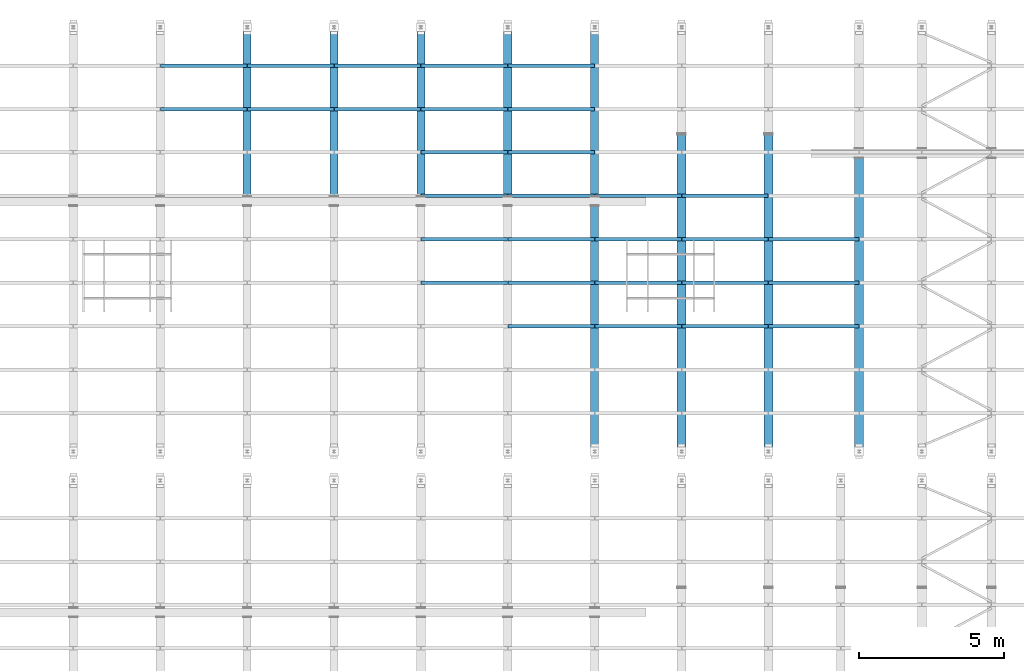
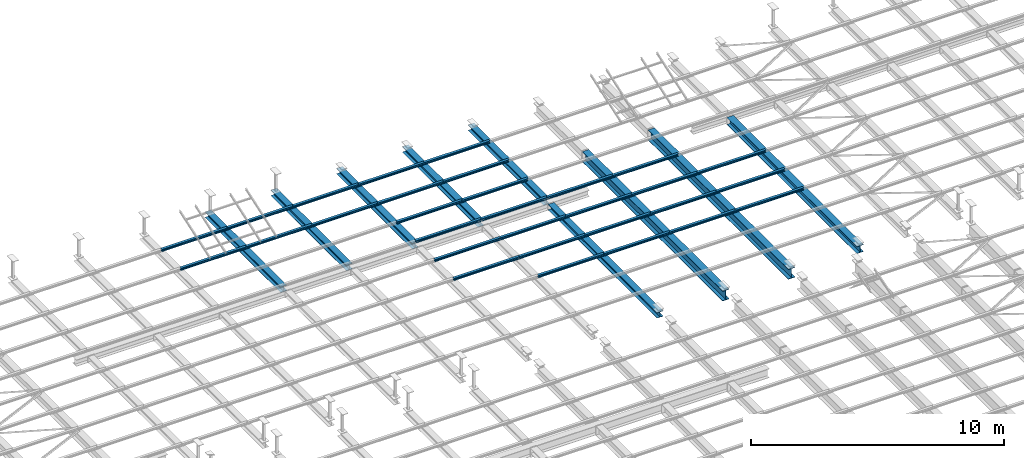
# One storey, part 82 of 139: 39 beams.
"""IFC2X3 building model written with IfcOpenShell, lengths in metres."""

from ifc_helpers import new_model, entity, si_unit, converted_unit, derived_unit, frame, origin, place, context, subcontext, project, spatial, polyline, outline, extrude, material, element, save


model = new_model("IFC2X3")

# Units and contexts
model_context = context("Model", 3, precision=1e-05, world=origin())
body_context = subcontext(model_context, "Body", "Model", "MODEL_VIEW")
ifc_project = project(units=[si_unit("LENGTHUNIT", "METRE"), si_unit("AREAUNIT", "SQUARE_METRE"), si_unit("VOLUMEUNIT", "CUBIC_METRE"), si_unit("MASSUNIT", "GRAM", prefix="KILO"), converted_unit("PLANEANGLEUNIT", "DEGREE", entity("IfcPlaneAngleMeasure", 0.0174532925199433), si_unit("PLANEANGLEUNIT", "RADIAN"), dimensions=[0, 0, 0, 0, 0, 0, 0]), derived_unit("THERMALTRANSMITTANCEUNIT", [(si_unit("POWERUNIT", "WATT"), 1), (si_unit("THERMODYNAMICTEMPERATUREUNIT", "KELVIN"), -1), (si_unit("LENGTHUNIT", "METRE"), -2)]), derived_unit("VOLUMETRICFLOWRATEUNIT", [(si_unit("LENGTHUNIT", "METRE"), 3), (converted_unit("TIMEUNIT", "hour", entity("IfcTimeMeasure", 3600.0), si_unit("TIMEUNIT", "SECOND"), dimensions=[0, 0, 1, 0, 0, 0, 0]), -1), (si_unit("LENGTHUNIT", "METRE"), -1)])], contexts=[model_context])

# Site, building, storey
site_placement = place(None, origin())
site = spatial("IfcSite", under=ifc_project, at=site_placement, Name="TWP_Speiseverteilzentrum SBW VZ II", CompositionType="ELEMENT")
building_placement = place(site_placement, origin())
building = spatial("IfcBuilding", under=site, at=building_placement, Name="Speiseverteilzentrum SBW VZ II", CompositionType="ELEMENT")
storey_placement = place(building_placement, frame((0.0, 0.0, 7.1307)))
storey = spatial("IfcBuildingStorey", under=building, at=storey_placement, Name="Wartung_FFB", CompositionType="ELEMENT", Elevation=7.1307)

# Beams
ifc_material_1 = material(Name="S235")
beam_1_placement = place(storey_placement, frame((61.0500000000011, 85.7000000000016, -0.325), z_axis=(0.0, 0.0, 1.0), x_axis=(-1.0, 0.0, 0.0)))
element("IfcBeam", 1, at=beam_1_placement, inside=storey, material=ifc_material_1, Name="Stahlträger", context=body_context, shape_type="SweptSolid", body=[
    extrude(outline(polyline([(-0.14, 0.135), (-0.14, 0.122), (-0.00400000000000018, 0.122), (-0.00400000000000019, -0.122), (-0.14, -0.122), (-0.14, -0.135), (0.14, -0.135), (0.14, -0.122), (0.00399999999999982, -0.122), (0.00399999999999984, 0.122), (0.14, 0.122), (0.14, 0.135), (-0.14, 0.135)])), frame((0.0, 0.0, 0.0), z_axis=(0.0, 1.0, 0.0), x_axis=(-1.0, 0.0, 0.0)), (0.0, 0.0, 1.0), 5.97756608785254),
])
ifc_material_2 = material(Name="S235")
beam_2_placement = place(storey_placement, frame((64.0500000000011, 85.7000000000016, -0.325), z_axis=(0.0, 0.0, 1.0), x_axis=(-1.0, 0.0, 0.0)))
element("IfcBeam", 2, at=beam_2_placement, inside=storey, material=ifc_material_2, Name="Stahlträger", context=body_context, shape_type="SweptSolid", body=[
    extrude(outline(polyline([(-0.14, 0.135), (-0.14, 0.122), (-0.00400000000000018, 0.122), (-0.00400000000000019, -0.122), (-0.14, -0.122), (-0.14, -0.135), (0.14, -0.135), (0.14, -0.122), (0.00399999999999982, -0.122), (0.00399999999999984, 0.122), (0.14, 0.122), (0.14, 0.135), (-0.14, 0.135)])), frame((0.0, 0.0, 0.0), z_axis=(0.0, 1.0, 0.0), x_axis=(-1.0, 0.0, 0.0)), (0.0, 0.0, 1.0), 5.97756608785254),
])
ifc_material_3 = material(Name="S235")
beam_3_placement = place(storey_placement, frame((67.0500000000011, 85.7000000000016, -0.325), z_axis=(0.0, 0.0, 1.0), x_axis=(-1.0, 0.0, 0.0)))
element("IfcBeam", 3, at=beam_3_placement, inside=storey, material=ifc_material_3, Name="Stahlträger", context=body_context, shape_type="SweptSolid", body=[
    extrude(outline(polyline([(-0.14, 0.135), (-0.14, 0.122), (-0.00400000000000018, 0.122), (-0.00400000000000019, -0.122), (-0.14, -0.122), (-0.14, -0.135), (0.14, -0.135), (0.14, -0.122), (0.00399999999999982, -0.122), (0.00399999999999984, 0.122), (0.14, 0.122), (0.14, 0.135), (-0.14, 0.135)])), frame((0.0, 0.0, 0.0), z_axis=(0.0, 1.0, 0.0), x_axis=(-1.0, 0.0, 0.0)), (0.0, 0.0, 1.0), 5.97756608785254),
])
ifc_material_4 = material(Name="S235")
beam_4_placement = place(storey_placement, frame((70.0500000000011, 85.7000000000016, -0.325), z_axis=(0.0, 0.0, 1.0), x_axis=(-1.0, 0.0, 0.0)))
element("IfcBeam", 4, at=beam_4_placement, inside=storey, material=ifc_material_4, Name="Stahlträger", context=body_context, shape_type="SweptSolid", body=[
    extrude(outline(polyline([(-0.14, 0.135), (-0.14, 0.122), (-0.00400000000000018, 0.122), (-0.00400000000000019, -0.122), (-0.14, -0.122), (-0.14, -0.135), (0.14, -0.135), (0.14, -0.122), (0.00399999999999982, -0.122), (0.00399999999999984, 0.122), (0.14, 0.122), (0.14, 0.135), (-0.14, 0.135)])), frame((0.0, 0.0, 0.0), z_axis=(0.0, 1.0, 0.0), x_axis=(-1.0, 0.0, 0.0)), (0.0, 0.0, 1.0), 5.97756608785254),
])
ifc_material_5 = material(Name="S235")
beam_5_placement = place(storey_placement, frame((73.0500000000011, 85.7000000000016, -0.325), z_axis=(0.0, 0.0, 1.0), x_axis=(-1.0, 0.0, 0.0)))
element("IfcBeam", 5, at=beam_5_placement, inside=storey, material=ifc_material_5, Name="Stahlträger", context=body_context, shape_type="SweptSolid", body=[
    extrude(outline(polyline([(-0.14, 0.135), (-0.14, 0.122), (-0.00400000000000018, 0.122), (-0.00400000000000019, -0.122), (-0.14, -0.122), (-0.14, -0.135), (0.14, -0.135), (0.14, -0.122), (0.00399999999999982, -0.122), (0.00399999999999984, 0.122), (0.14, 0.122), (0.14, 0.135), (-0.14, 0.135)])), frame((0.0, 0.0, 0.0), z_axis=(0.0, 1.0, 0.0), x_axis=(-1.0, 0.0, 0.0)), (0.0, 0.0, 1.0), 5.97756608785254),
])
ifc_material_6 = material(Name="S235")
beam_6_placement = place(storey_placement, frame((73.0500000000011, 79.372433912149, -0.325), z_axis=(0.0, 0.0, 1.0), x_axis=(-1.0, 0.0, 0.0)))
element("IfcBeam", 6, at=beam_6_placement, inside=storey, material=ifc_material_6, Name="Stahlträger", context=body_context, shape_type="SweptSolid", body=[
    extrude(outline(polyline([(-0.14, 0.135), (-0.14, 0.122), (-0.00400000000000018, 0.122), (-0.00400000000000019, -0.122), (-0.14, -0.122), (-0.14, -0.135), (0.14, -0.135), (0.14, -0.122), (0.00399999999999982, -0.122), (0.00399999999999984, 0.122), (0.14, 0.122), (0.14, 0.135), (-0.14, 0.135)])), frame((0.0, 0.0, 0.0), z_axis=(0.0, 1.0, 0.0), x_axis=(-1.0, 0.0, 0.0)), (0.0, 0.0, 1.0), 8.62018125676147),
])
ifc_material_7 = material(Name="S235")
beam_7_placement = place(storey_placement, frame((79.0500000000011, 81.8430000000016, -0.435), z_axis=(0.0, 0.0, 1.0), x_axis=(-1.0, 0.0, 0.0)))
element("IfcBeam", 7, at=beam_7_placement, inside=storey, material=ifc_material_7, Name="Stahlträger", context=body_context, shape_type="SweptSolid", body=[
    extrude(outline(polyline([(-0.15, 0.245), (-0.15, 0.222), (-0.00599999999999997, 0.222), (-0.006, -0.222), (-0.15, -0.222), (-0.15, -0.245), (0.15, -0.245), (0.15, -0.222), (0.00600000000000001, -0.222), (0.00600000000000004, 0.222), (0.15, 0.222), (0.15, 0.245), (-0.15, 0.245)])), frame((0.0, 0.0, 0.0), z_axis=(0.0, 1.0, 0.0), x_axis=(-1.0, 0.0, 0.0)), (0.0, 0.0, 1.0), 11.090747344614),
])
ifc_material_8 = material(Name="S235")
beam_8_placement = place(storey_placement, frame((76.0500000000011, 81.8430000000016, -0.435), z_axis=(0.0, 0.0, 1.0), x_axis=(-1.0, 0.0, 0.0)))
element("IfcBeam", 8, at=beam_8_placement, inside=storey, material=ifc_material_8, Name="Stahlträger", context=body_context, shape_type="SweptSolid", body=[
    extrude(outline(polyline([(-0.15, 0.245), (-0.15, 0.222), (-0.00599999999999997, 0.222), (-0.006, -0.222), (-0.15, -0.222), (-0.15, -0.245), (0.15, -0.245), (0.15, -0.222), (0.00600000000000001, -0.222), (0.00600000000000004, 0.222), (0.15, 0.222), (0.15, 0.245), (-0.15, 0.245)])), frame((0.0, 0.0, 0.0), z_axis=(0.0, 1.0, 0.0), x_axis=(-1.0, 0.0, 0.0)), (0.0, 0.0, 1.0), 11.090747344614),
])
ifc_material_9 = material(Name="S235")
beam_9_placement = place(storey_placement, frame((82.1800000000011, 81.0244153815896, -0.365), z_axis=(0.0, 0.0, 1.0), x_axis=(-1.0, 0.0, 0.0)))
element("IfcBeam", 9, at=beam_9_placement, inside=storey, material=ifc_material_9, Name="Stahlträger", context=body_context, shape_type="SweptSolid", body=[
    extrude(outline(polyline([(-0.15, 0.175), (-0.15, 0.1575), (-0.00500000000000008, 0.1575), (-0.0050000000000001, -0.1575), (-0.15, -0.1575), (-0.15, -0.175), (0.15, -0.175), (0.15, -0.1575), (0.0049999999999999, -0.1575), (0.00499999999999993, 0.1575), (0.15, 0.1575), (0.15, 0.175), (-0.15, 0.175)])), frame((0.0, 0.0, 0.0), z_axis=(0.0, 1.0, 0.0), x_axis=(-1.0, 0.0, 0.0)), (0.0, 0.0, 1.0), 10.272162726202),
])
ifc_material_10 = material(Name="S235")
beam_10_placement = place(storey_placement, frame((64.0600000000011, 84.2261263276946, -0.133), z_axis=(0.0, 0.0, 1.0), x_axis=(0.0, -1.0, 0.0)))
element("IfcBeam", 10, at=beam_10_placement, inside=storey, material=ifc_material_10, Name="Nebenträger", context=body_context, shape_type="SweptSolid", body=[
    extrude(outline(polyline([(-0.06, 0.0570000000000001), (-0.06, 0.0490000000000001), (-0.00249999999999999, 0.0490000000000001), (-0.0025, -0.0489999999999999), (-0.06, -0.0489999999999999), (-0.06, -0.0569999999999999), (0.06, -0.0569999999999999), (0.06, -0.0489999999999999), (0.0025, -0.0489999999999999), (0.00250000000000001, 0.0490000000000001), (0.06, 0.0490000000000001), (0.06, 0.0570000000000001), (-0.06, 0.0570000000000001)])), frame((0.0, 0.0, 0.0), z_axis=(0.0, 1.0, 0.0), x_axis=(-1.0, 0.0, 0.0)), (0.0, 0.0, 1.0), 2.98000000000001),
])
ifc_material_11 = material(Name="S235")
beam_11_placement = place(storey_placement, frame((67.0600000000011, 84.2261263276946, -0.133), z_axis=(0.0, 0.0, 1.0), x_axis=(0.0, -1.0, 0.0)))
element("IfcBeam", 11, at=beam_11_placement, inside=storey, material=ifc_material_11, Name="Nebenträger", context=body_context, shape_type="SweptSolid", body=[
    extrude(outline(polyline([(-0.06, 0.0570000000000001), (-0.06, 0.0490000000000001), (-0.00249999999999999, 0.0490000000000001), (-0.0025, -0.0489999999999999), (-0.06, -0.0489999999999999), (-0.06, -0.0569999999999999), (0.06, -0.0569999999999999), (0.06, -0.0489999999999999), (0.0025, -0.0489999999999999), (0.00250000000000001, 0.0490000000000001), (0.06, 0.0490000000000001), (0.06, 0.0570000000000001), (-0.06, 0.0570000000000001)])), frame((0.0, 0.0, 0.0), z_axis=(0.0, 1.0, 0.0), x_axis=(-1.0, 0.0, 0.0)), (0.0, 0.0, 1.0), 2.98),
])
ifc_material_12 = material(Name="S235")
beam_12_placement = place(storey_placement, frame((70.0600000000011, 84.2261263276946, -0.133), z_axis=(0.0, 0.0, 1.0), x_axis=(0.0, -1.0, 0.0)))
element("IfcBeam", 12, at=beam_12_placement, inside=storey, material=ifc_material_12, Name="Nebenträger", context=body_context, shape_type="SweptSolid", body=[
    extrude(outline(polyline([(-0.06, 0.0570000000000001), (-0.06, 0.0490000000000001), (-0.00249999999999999, 0.0490000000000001), (-0.0025, -0.0489999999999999), (-0.06, -0.0489999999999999), (-0.06, -0.0569999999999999), (0.06, -0.0569999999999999), (0.06, -0.0489999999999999), (0.0025, -0.0489999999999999), (0.00250000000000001, 0.0490000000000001), (0.06, 0.0490000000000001), (0.06, 0.0570000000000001), (-0.06, 0.0570000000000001)])), frame((0.0, 0.0, 0.0), z_axis=(0.0, 1.0, 0.0), x_axis=(-1.0, 0.0, 0.0)), (0.0, 0.0, 1.0), 2.98),
])
ifc_material_13 = material(Name="S235")
beam_13_placement = place(storey_placement, frame((58.0600000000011, 84.2261263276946, -0.133), z_axis=(0.0, 0.0, 1.0), x_axis=(0.0, -1.0, 0.0)))
element("IfcBeam", 13, at=beam_13_placement, inside=storey, material=ifc_material_13, Name="Nebenträger", context=body_context, shape_type="SweptSolid", body=[
    extrude(outline(polyline([(-0.06, 0.0570000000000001), (-0.06, 0.0490000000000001), (-0.00249999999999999, 0.0490000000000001), (-0.0025, -0.0489999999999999), (-0.06, -0.0489999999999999), (-0.06, -0.0569999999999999), (0.06, -0.0569999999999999), (0.06, -0.0489999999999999), (0.0025, -0.0489999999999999), (0.00250000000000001, 0.0490000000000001), (0.06, 0.0490000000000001), (0.06, 0.0570000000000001), (-0.06, 0.0570000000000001)])), frame((0.0, 0.0, 0.0), z_axis=(0.0, 1.0, 0.0), x_axis=(-1.0, 0.0, 0.0)), (0.0, 0.0, 1.0), 2.98),
])
ifc_material_14 = material(Name="S235")
beam_14_placement = place(storey_placement, frame((61.0600000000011, 84.2261263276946, -0.133), z_axis=(0.0, 0.0, 1.0), x_axis=(0.0, -1.0, 0.0)))
element("IfcBeam", 14, at=beam_14_placement, inside=storey, material=ifc_material_14, Name="Nebenträger", context=body_context, shape_type="SweptSolid", body=[
    extrude(outline(polyline([(-0.06, 0.0570000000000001), (-0.06, 0.0490000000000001), (-0.00249999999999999, 0.0490000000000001), (-0.0025, -0.0489999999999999), (-0.06, -0.0489999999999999), (-0.06, -0.0569999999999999), (0.06, -0.0569999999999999), (0.06, -0.0489999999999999), (0.0025, -0.0489999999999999), (0.00250000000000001, 0.0490000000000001), (0.06, 0.0490000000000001), (0.06, 0.0570000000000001), (-0.06, 0.0570000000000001)])), frame((0.0, 0.0, 0.0), z_axis=(0.0, 1.0, 0.0), x_axis=(-1.0, 0.0, 0.0)), (0.0, 0.0, 1.0), 2.98),
])
ifc_material_15 = material(Name="S235")
beam_15_placement = place(storey_placement, frame((64.0600000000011, 82.7261263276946, -0.133), z_axis=(0.0, 0.0, 1.0), x_axis=(0.0, -1.0, 0.0)))
element("IfcBeam", 15, at=beam_15_placement, inside=storey, material=ifc_material_15, Name="Nebenträger", context=body_context, shape_type="SweptSolid", body=[
    extrude(outline(polyline([(-0.06, 0.0570000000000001), (-0.06, 0.0490000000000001), (-0.00249999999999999, 0.0490000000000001), (-0.0025, -0.0489999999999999), (-0.06, -0.0489999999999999), (-0.06, -0.0569999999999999), (0.06, -0.0569999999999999), (0.06, -0.0489999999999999), (0.0025, -0.0489999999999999), (0.00250000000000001, 0.0490000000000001), (0.06, 0.0490000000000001), (0.06, 0.0570000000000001), (-0.06, 0.0570000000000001)])), frame((0.0, 0.0, 0.0), z_axis=(0.0, 1.0, 0.0), x_axis=(-1.0, 0.0, 0.0)), (0.0, 0.0, 1.0), 2.98000000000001),
])
ifc_material_16 = material(Name="S235")
beam_16_placement = place(storey_placement, frame((67.0600000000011, 82.7261263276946, -0.133), z_axis=(0.0, 0.0, 1.0), x_axis=(0.0, -1.0, 0.0)))
element("IfcBeam", 16, at=beam_16_placement, inside=storey, material=ifc_material_16, Name="Nebenträger", context=body_context, shape_type="SweptSolid", body=[
    extrude(outline(polyline([(-0.06, 0.0570000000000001), (-0.06, 0.0490000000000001), (-0.00249999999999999, 0.0490000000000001), (-0.0025, -0.0489999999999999), (-0.06, -0.0489999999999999), (-0.06, -0.0569999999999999), (0.06, -0.0569999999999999), (0.06, -0.0489999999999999), (0.0025, -0.0489999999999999), (0.00250000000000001, 0.0490000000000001), (0.06, 0.0490000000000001), (0.06, 0.0570000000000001), (-0.06, 0.0570000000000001)])), frame((0.0, 0.0, 0.0), z_axis=(0.0, 1.0, 0.0), x_axis=(-1.0, 0.0, 0.0)), (0.0, 0.0, 1.0), 2.98),
])
ifc_material_17 = material(Name="S235")
beam_17_placement = place(storey_placement, frame((70.0600000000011, 82.7261263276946, -0.133), z_axis=(0.0, 0.0, 1.0), x_axis=(0.0, -1.0, 0.0)))
element("IfcBeam", 17, at=beam_17_placement, inside=storey, material=ifc_material_17, Name="Nebenträger", context=body_context, shape_type="SweptSolid", body=[
    extrude(outline(polyline([(-0.06, 0.0570000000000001), (-0.06, 0.0490000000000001), (-0.00249999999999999, 0.0490000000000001), (-0.0025, -0.0489999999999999), (-0.06, -0.0489999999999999), (-0.06, -0.0569999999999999), (0.06, -0.0569999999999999), (0.06, -0.0489999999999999), (0.0025, -0.0489999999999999), (0.00250000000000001, 0.0490000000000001), (0.06, 0.0490000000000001), (0.06, 0.0570000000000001), (-0.06, 0.0570000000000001)])), frame((0.0, 0.0, 0.0), z_axis=(0.0, 1.0, 0.0), x_axis=(-1.0, 0.0, 0.0)), (0.0, 0.0, 1.0), 2.98),
])
ifc_material_18 = material(Name="S235")
beam_18_placement = place(storey_placement, frame((58.0600000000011, 82.7261263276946, -0.133), z_axis=(0.0, 0.0, 1.0), x_axis=(0.0, -1.0, 0.0)))
element("IfcBeam", 18, at=beam_18_placement, inside=storey, material=ifc_material_18, Name="Nebenträger", context=body_context, shape_type="SweptSolid", body=[
    extrude(outline(polyline([(-0.06, 0.0570000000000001), (-0.06, 0.0490000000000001), (-0.00249999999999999, 0.0490000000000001), (-0.0025, -0.0489999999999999), (-0.06, -0.0489999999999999), (-0.06, -0.0569999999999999), (0.06, -0.0569999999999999), (0.06, -0.0489999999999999), (0.0025, -0.0489999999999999), (0.00250000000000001, 0.0490000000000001), (0.06, 0.0490000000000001), (0.06, 0.0570000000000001), (-0.06, 0.0570000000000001)])), frame((0.0, 0.0, 0.0), z_axis=(0.0, 1.0, 0.0), x_axis=(-1.0, 0.0, 0.0)), (0.0, 0.0, 1.0), 2.98),
])
ifc_material_19 = material(Name="S235")
beam_19_placement = place(storey_placement, frame((61.0600000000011, 82.7261263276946, -0.133), z_axis=(0.0, 0.0, 1.0), x_axis=(0.0, -1.0, 0.0)))
element("IfcBeam", 19, at=beam_19_placement, inside=storey, material=ifc_material_19, Name="Nebenträger", context=body_context, shape_type="SweptSolid", body=[
    extrude(outline(polyline([(-0.06, 0.0570000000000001), (-0.06, 0.0490000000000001), (-0.00249999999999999, 0.0490000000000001), (-0.0025, -0.0489999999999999), (-0.06, -0.0489999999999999), (-0.06, -0.0569999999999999), (0.06, -0.0569999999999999), (0.06, -0.0489999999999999), (0.0025, -0.0489999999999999), (0.00250000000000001, 0.0490000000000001), (0.06, 0.0490000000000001), (0.06, 0.0570000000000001), (-0.06, 0.0570000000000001)])), frame((0.0, 0.0, 0.0), z_axis=(0.0, 1.0, 0.0), x_axis=(-1.0, 0.0, 0.0)), (0.0, 0.0, 1.0), 2.98),
])
ifc_material_20 = material(Name="S235")
beam_20_placement = place(storey_placement, frame((67.0600000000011, 81.2261263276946, -0.133), z_axis=(0.0, 0.0, 1.0), x_axis=(0.0, -1.0, 0.0)))
element("IfcBeam", 20, at=beam_20_placement, inside=storey, material=ifc_material_20, Name="Nebenträger", context=body_context, shape_type="SweptSolid", body=[
    extrude(outline(polyline([(-0.06, 0.0570000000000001), (-0.06, 0.0490000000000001), (-0.00249999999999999, 0.0490000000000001), (-0.0025, -0.0489999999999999), (-0.06, -0.0489999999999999), (-0.06, -0.0569999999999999), (0.06, -0.0569999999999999), (0.06, -0.0489999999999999), (0.0025, -0.0489999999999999), (0.00250000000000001, 0.0490000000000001), (0.06, 0.0490000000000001), (0.06, 0.0570000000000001), (-0.06, 0.0570000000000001)])), frame((0.0, 0.0, 0.0), z_axis=(0.0, 1.0, 0.0), x_axis=(-1.0, 0.0, 0.0)), (0.0, 0.0, 1.0), 2.98),
])
ifc_material_21 = material(Name="S235")
beam_21_placement = place(storey_placement, frame((70.0600000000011, 81.2261263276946, -0.133), z_axis=(0.0, 0.0, 1.0), x_axis=(0.0, -1.0, 0.0)))
element("IfcBeam", 21, at=beam_21_placement, inside=storey, material=ifc_material_21, Name="Nebenträger", context=body_context, shape_type="SweptSolid", body=[
    extrude(outline(polyline([(-0.06, 0.0570000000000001), (-0.06, 0.0490000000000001), (-0.00249999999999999, 0.0490000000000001), (-0.0025, -0.0489999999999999), (-0.06, -0.0489999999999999), (-0.06, -0.0569999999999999), (0.06, -0.0569999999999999), (0.06, -0.0489999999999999), (0.0025, -0.0489999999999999), (0.00250000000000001, 0.0490000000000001), (0.06, 0.0490000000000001), (0.06, 0.0570000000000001), (-0.06, 0.0570000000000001)])), frame((0.0, 0.0, 0.0), z_axis=(0.0, 1.0, 0.0), x_axis=(-1.0, 0.0, 0.0)), (0.0, 0.0, 1.0), 2.98),
])
ifc_material_22 = material(Name="S235")
beam_22_placement = place(storey_placement, frame((67.0600000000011, 79.7261263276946, -0.133), z_axis=(0.0, 0.0, 1.0), x_axis=(0.0, -1.0, 0.0)))
element("IfcBeam", 22, at=beam_22_placement, inside=storey, material=ifc_material_22, Name="Nebenträger", context=body_context, shape_type="SweptSolid", body=[
    extrude(outline(polyline([(-0.06, 0.0570000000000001), (-0.06, 0.0490000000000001), (-0.00249999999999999, 0.0490000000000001), (-0.0025, -0.0489999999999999), (-0.06, -0.0489999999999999), (-0.06, -0.0569999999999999), (0.06, -0.0569999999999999), (0.06, -0.0489999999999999), (0.0025, -0.0489999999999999), (0.00250000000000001, 0.0490000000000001), (0.06, 0.0490000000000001), (0.06, 0.0570000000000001), (-0.06, 0.0570000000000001)])), frame((0.0, 0.0, 0.0), z_axis=(0.0, 1.0, 0.0), x_axis=(-1.0, 0.0, 0.0)), (0.0, 0.0, 1.0), 2.98),
])
ifc_material_23 = material(Name="S235")
beam_23_placement = place(storey_placement, frame((70.0600000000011, 79.7261263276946, -0.133), z_axis=(0.0, 0.0, 1.0), x_axis=(0.0, -1.0, 0.0)))
element("IfcBeam", 23, at=beam_23_placement, inside=storey, material=ifc_material_23, Name="Nebenträger", context=body_context, shape_type="SweptSolid", body=[
    extrude(outline(polyline([(-0.06, 0.0570000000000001), (-0.06, 0.0490000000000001), (-0.00249999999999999, 0.0490000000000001), (-0.0025, -0.0489999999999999), (-0.06, -0.0489999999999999), (-0.06, -0.0569999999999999), (0.06, -0.0569999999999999), (0.06, -0.0489999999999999), (0.0025, -0.0489999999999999), (0.00250000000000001, 0.0490000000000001), (0.06, 0.0490000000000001), (0.06, 0.0570000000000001), (-0.06, 0.0570000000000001)])), frame((0.0, 0.0, 0.0), z_axis=(0.0, 1.0, 0.0), x_axis=(-1.0, 0.0, 0.0)), (0.0, 0.0, 1.0), 2.98),
])
ifc_material_24 = material(Name="S235")
beam_24_placement = place(storey_placement, frame((73.0600000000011, 79.7261263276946, -0.133), z_axis=(0.0, 0.0, 1.0), x_axis=(0.0, -1.0, 0.0)))
element("IfcBeam", 24, at=beam_24_placement, inside=storey, material=ifc_material_24, Name="Nebenträger", context=body_context, shape_type="SweptSolid", body=[
    extrude(outline(polyline([(-0.06, 0.0570000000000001), (-0.06, 0.0490000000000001), (-0.00249999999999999, 0.0490000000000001), (-0.0025, -0.0489999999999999), (-0.06, -0.0489999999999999), (-0.06, -0.0569999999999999), (0.06, -0.0569999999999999), (0.06, -0.0489999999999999), (0.0025, -0.0489999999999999), (0.00250000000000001, 0.0490000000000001), (0.06, 0.0490000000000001), (0.06, 0.0570000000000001), (-0.06, 0.0570000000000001)])), frame((0.0, 0.0, 0.0), z_axis=(0.0, 1.0, 0.0), x_axis=(-1.0, 0.0, 0.0)), (0.0, 0.0, 1.0), 2.98),
])
ifc_material_25 = material(Name="S235")
beam_25_placement = place(storey_placement, frame((76.0600000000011, 79.7261263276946, -0.133), z_axis=(0.0, 0.0, 1.0), x_axis=(0.0, -1.0, 0.0)))
element("IfcBeam", 25, at=beam_25_placement, inside=storey, material=ifc_material_25, Name="Nebenträger", context=body_context, shape_type="SweptSolid", body=[
    extrude(outline(polyline([(-0.06, 0.0570000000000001), (-0.06, 0.0490000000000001), (-0.00249999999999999, 0.0490000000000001), (-0.0025, -0.0489999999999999), (-0.06, -0.0489999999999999), (-0.06, -0.0569999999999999), (0.06, -0.0569999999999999), (0.06, -0.0489999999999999), (0.0025, -0.0489999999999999), (0.00250000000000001, 0.0490000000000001), (0.06, 0.0490000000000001), (0.06, 0.0570000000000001), (-0.06, 0.0570000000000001)])), frame((0.0, 0.0, 0.0), z_axis=(0.0, 1.0, 0.0), x_axis=(-1.0, 0.0, 0.0)), (0.0, 0.0, 1.0), 2.98),
])
ifc_material_26 = material(Name="S235")
beam_26_placement = place(storey_placement, frame((67.0600000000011, 78.2261263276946, -0.133), z_axis=(0.0, 0.0, 1.0), x_axis=(0.0, -1.0, 0.0)))
element("IfcBeam", 26, at=beam_26_placement, inside=storey, material=ifc_material_26, Name="Nebenträger", context=body_context, shape_type="SweptSolid", body=[
    extrude(outline(polyline([(-0.06, 0.0570000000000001), (-0.06, 0.0490000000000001), (-0.00249999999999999, 0.0490000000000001), (-0.0025, -0.0489999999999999), (-0.06, -0.0489999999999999), (-0.06, -0.0569999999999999), (0.06, -0.0569999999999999), (0.06, -0.0489999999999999), (0.0025, -0.0489999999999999), (0.00250000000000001, 0.0490000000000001), (0.06, 0.0490000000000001), (0.06, 0.0570000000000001), (-0.06, 0.0570000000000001)])), frame((0.0, 0.0, 0.0), z_axis=(0.0, 1.0, 0.0), x_axis=(-1.0, 0.0, 0.0)), (0.0, 0.0, 1.0), 2.98),
])
ifc_material_27 = material(Name="S235")
beam_27_placement = place(storey_placement, frame((70.0600000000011, 78.2261263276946, -0.133), z_axis=(0.0, 0.0, 1.0), x_axis=(0.0, -1.0, 0.0)))
element("IfcBeam", 27, at=beam_27_placement, inside=storey, material=ifc_material_27, Name="Nebenträger", context=body_context, shape_type="SweptSolid", body=[
    extrude(outline(polyline([(-0.06, 0.0570000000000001), (-0.06, 0.0490000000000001), (-0.00249999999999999, 0.0490000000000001), (-0.0025, -0.0489999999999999), (-0.06, -0.0489999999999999), (-0.06, -0.0569999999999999), (0.06, -0.0569999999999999), (0.06, -0.0489999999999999), (0.0025, -0.0489999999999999), (0.00250000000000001, 0.0490000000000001), (0.06, 0.0490000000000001), (0.06, 0.0570000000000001), (-0.06, 0.0570000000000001)])), frame((0.0, 0.0, 0.0), z_axis=(0.0, 1.0, 0.0), x_axis=(-1.0, 0.0, 0.0)), (0.0, 0.0, 1.0), 2.98),
])
ifc_material_28 = material(Name="S235")
beam_28_placement = place(storey_placement, frame((73.0600000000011, 78.2261263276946, -0.133), z_axis=(0.0, 0.0, 1.0), x_axis=(0.0, -1.0, 0.0)))
element("IfcBeam", 28, at=beam_28_placement, inside=storey, material=ifc_material_28, Name="Nebenträger", context=body_context, shape_type="SweptSolid", body=[
    extrude(outline(polyline([(-0.06, 0.0570000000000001), (-0.06, 0.0490000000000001), (-0.00249999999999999, 0.0490000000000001), (-0.0025, -0.0489999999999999), (-0.06, -0.0489999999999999), (-0.06, -0.0569999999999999), (0.06, -0.0569999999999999), (0.06, -0.0489999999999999), (0.0025, -0.0489999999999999), (0.00250000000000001, 0.0490000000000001), (0.06, 0.0490000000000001), (0.06, 0.0570000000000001), (-0.06, 0.0570000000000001)])), frame((0.0, 0.0, 0.0), z_axis=(0.0, 1.0, 0.0), x_axis=(-1.0, 0.0, 0.0)), (0.0, 0.0, 1.0), 2.98),
])
ifc_material_29 = material(Name="S235")
beam_29_placement = place(storey_placement, frame((76.0600000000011, 78.2261263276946, -0.133), z_axis=(0.0, 0.0, 1.0), x_axis=(0.0, -1.0, 0.0)))
element("IfcBeam", 29, at=beam_29_placement, inside=storey, material=ifc_material_29, Name="Nebenträger", context=body_context, shape_type="SweptSolid", body=[
    extrude(outline(polyline([(-0.06, 0.0570000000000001), (-0.06, 0.0490000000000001), (-0.00249999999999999, 0.0490000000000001), (-0.0025, -0.0489999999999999), (-0.06, -0.0489999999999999), (-0.06, -0.0569999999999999), (0.06, -0.0569999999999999), (0.06, -0.0489999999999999), (0.0025, -0.0489999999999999), (0.00250000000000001, 0.0490000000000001), (0.06, 0.0490000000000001), (0.06, 0.0570000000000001), (-0.06, 0.0570000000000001)])), frame((0.0, 0.0, 0.0), z_axis=(0.0, 1.0, 0.0), x_axis=(-1.0, 0.0, 0.0)), (0.0, 0.0, 1.0), 2.98),
])
ifc_material_30 = material(Name="S235")
beam_30_placement = place(storey_placement, frame((67.0600000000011, 76.7261263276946, -0.133), z_axis=(0.0, 0.0, 1.0), x_axis=(0.0, -1.0, 0.0)))
element("IfcBeam", 30, at=beam_30_placement, inside=storey, material=ifc_material_30, Name="Nebenträger", context=body_context, shape_type="SweptSolid", body=[
    extrude(outline(polyline([(-0.06, 0.0570000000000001), (-0.06, 0.0490000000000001), (-0.00249999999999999, 0.0490000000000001), (-0.0025, -0.0489999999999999), (-0.06, -0.0489999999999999), (-0.06, -0.0569999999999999), (0.06, -0.0569999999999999), (0.06, -0.0489999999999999), (0.0025, -0.0489999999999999), (0.00250000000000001, 0.0490000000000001), (0.06, 0.0490000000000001), (0.06, 0.0570000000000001), (-0.06, 0.0570000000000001)])), frame((0.0, 0.0, 0.0), z_axis=(0.0, 1.0, 0.0), x_axis=(-1.0, 0.0, 0.0)), (0.0, 0.0, 1.0), 2.98),
])
ifc_material_31 = material(Name="S235")
beam_31_placement = place(storey_placement, frame((70.0600000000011, 76.7261263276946, -0.133), z_axis=(0.0, 0.0, 1.0), x_axis=(0.0, -1.0, 0.0)))
element("IfcBeam", 31, at=beam_31_placement, inside=storey, material=ifc_material_31, Name="Nebenträger", context=body_context, shape_type="SweptSolid", body=[
    extrude(outline(polyline([(-0.06, 0.0570000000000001), (-0.06, 0.0490000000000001), (-0.00249999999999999, 0.0490000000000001), (-0.0025, -0.0489999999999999), (-0.06, -0.0489999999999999), (-0.06, -0.0569999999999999), (0.06, -0.0569999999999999), (0.06, -0.0489999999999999), (0.0025, -0.0489999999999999), (0.00250000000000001, 0.0490000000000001), (0.06, 0.0490000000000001), (0.06, 0.0570000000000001), (-0.06, 0.0570000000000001)])), frame((0.0, 0.0, 0.0), z_axis=(0.0, 1.0, 0.0), x_axis=(-1.0, 0.0, 0.0)), (0.0, 0.0, 1.0), 2.98),
])
ifc_material_32 = material(Name="S235")
beam_32_placement = place(storey_placement, frame((73.0600000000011, 76.7261263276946, -0.133), z_axis=(0.0, 0.0, 1.0), x_axis=(0.0, -1.0, 0.0)))
element("IfcBeam", 32, at=beam_32_placement, inside=storey, material=ifc_material_32, Name="Nebenträger", context=body_context, shape_type="SweptSolid", body=[
    extrude(outline(polyline([(-0.06, 0.0570000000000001), (-0.06, 0.0490000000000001), (-0.00249999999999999, 0.0490000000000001), (-0.0025, -0.0489999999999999), (-0.06, -0.0489999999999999), (-0.06, -0.0569999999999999), (0.06, -0.0569999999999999), (0.06, -0.0489999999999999), (0.0025, -0.0489999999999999), (0.00250000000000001, 0.0490000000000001), (0.06, 0.0490000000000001), (0.06, 0.0570000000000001), (-0.06, 0.0570000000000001)])), frame((0.0, 0.0, 0.0), z_axis=(0.0, 1.0, 0.0), x_axis=(-1.0, 0.0, 0.0)), (0.0, 0.0, 1.0), 2.98),
])
ifc_material_33 = material(Name="S235")
beam_33_placement = place(storey_placement, frame((76.0600000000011, 76.7261263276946, -0.133), z_axis=(0.0, 0.0, 1.0), x_axis=(0.0, -1.0, 0.0)))
element("IfcBeam", 33, at=beam_33_placement, inside=storey, material=ifc_material_33, Name="Nebenträger", context=body_context, shape_type="SweptSolid", body=[
    extrude(outline(polyline([(-0.06, 0.0570000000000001), (-0.06, 0.0490000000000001), (-0.00249999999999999, 0.0490000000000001), (-0.0025, -0.0489999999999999), (-0.06, -0.0489999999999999), (-0.06, -0.0569999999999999), (0.06, -0.0569999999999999), (0.06, -0.0489999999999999), (0.0025, -0.0489999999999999), (0.00250000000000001, 0.0490000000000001), (0.06, 0.0490000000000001), (0.06, 0.0570000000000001), (-0.06, 0.0570000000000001)])), frame((0.0, 0.0, 0.0), z_axis=(0.0, 1.0, 0.0), x_axis=(-1.0, 0.0, 0.0)), (0.0, 0.0, 1.0), 2.98),
])
ifc_material_34 = material(Name="S235")
beam_34_placement = place(storey_placement, frame((70.0600000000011, 75.2261263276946, -0.133), z_axis=(0.0, 0.0, 1.0), x_axis=(0.0, -1.0, 0.0)))
element("IfcBeam", 34, at=beam_34_placement, inside=storey, material=ifc_material_34, Name="Nebenträger", context=body_context, shape_type="SweptSolid", body=[
    extrude(outline(polyline([(-0.06, 0.0570000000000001), (-0.06, 0.0490000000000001), (-0.00249999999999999, 0.0490000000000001), (-0.0025, -0.0489999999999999), (-0.06, -0.0489999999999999), (-0.06, -0.0569999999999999), (0.06, -0.0569999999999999), (0.06, -0.0489999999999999), (0.0025, -0.0489999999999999), (0.00250000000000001, 0.0490000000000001), (0.06, 0.0490000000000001), (0.06, 0.0570000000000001), (-0.06, 0.0570000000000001)])), frame((0.0, 0.0, 0.0), z_axis=(0.0, 1.0, 0.0), x_axis=(-1.0, 0.0, 0.0)), (0.0, 0.0, 1.0), 2.98),
])
ifc_material_35 = material(Name="S235")
beam_35_placement = place(storey_placement, frame((73.0600000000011, 75.2261263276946, -0.133), z_axis=(0.0, 0.0, 1.0), x_axis=(0.0, -1.0, 0.0)))
element("IfcBeam", 35, at=beam_35_placement, inside=storey, material=ifc_material_35, Name="Nebenträger", context=body_context, shape_type="SweptSolid", body=[
    extrude(outline(polyline([(-0.06, 0.0570000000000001), (-0.06, 0.0490000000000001), (-0.00249999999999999, 0.0490000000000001), (-0.0025, -0.0489999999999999), (-0.06, -0.0489999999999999), (-0.06, -0.0569999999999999), (0.06, -0.0569999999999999), (0.06, -0.0489999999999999), (0.0025, -0.0489999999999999), (0.00250000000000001, 0.0490000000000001), (0.06, 0.0490000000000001), (0.06, 0.0570000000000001), (-0.06, 0.0570000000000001)])), frame((0.0, 0.0, 0.0), z_axis=(0.0, 1.0, 0.0), x_axis=(-1.0, 0.0, 0.0)), (0.0, 0.0, 1.0), 2.98),
])
ifc_material_36 = material(Name="S235")
beam_36_placement = place(storey_placement, frame((76.0600000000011, 75.2261263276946, -0.133), z_axis=(0.0, 0.0, 1.0), x_axis=(0.0, -1.0, 0.0)))
element("IfcBeam", 36, at=beam_36_placement, inside=storey, material=ifc_material_36, Name="Nebenträger", context=body_context, shape_type="SweptSolid", body=[
    extrude(outline(polyline([(-0.06, 0.0570000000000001), (-0.06, 0.0490000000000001), (-0.00249999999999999, 0.0490000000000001), (-0.0025, -0.0489999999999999), (-0.06, -0.0489999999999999), (-0.06, -0.0569999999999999), (0.06, -0.0569999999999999), (0.06, -0.0489999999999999), (0.0025, -0.0489999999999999), (0.00250000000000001, 0.0490000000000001), (0.06, 0.0490000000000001), (0.06, 0.0570000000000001), (-0.06, 0.0570000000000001)])), frame((0.0, 0.0, 0.0), z_axis=(0.0, 1.0, 0.0), x_axis=(-1.0, 0.0, 0.0)), (0.0, 0.0, 1.0), 2.98),
])
ifc_material_37 = material(Name="S235")
beam_37_placement = place(storey_placement, frame((79.0600000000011, 78.2261263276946, -0.133), z_axis=(0.0, 0.0, 1.0), x_axis=(0.0, -1.0, 0.0)))
element("IfcBeam", 37, at=beam_37_placement, inside=storey, material=ifc_material_37, Name="Nebenträger", context=body_context, shape_type="SweptSolid", body=[
    extrude(outline(polyline([(-0.06, 0.0570000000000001), (-0.06, 0.0490000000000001), (-0.00249999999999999, 0.0490000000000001), (-0.0025, -0.0489999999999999), (-0.06, -0.0489999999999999), (-0.06, -0.0569999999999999), (0.06, -0.0569999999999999), (0.06, -0.0489999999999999), (0.0025, -0.0489999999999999), (0.00250000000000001, 0.0490000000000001), (0.06, 0.0490000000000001), (0.06, 0.0570000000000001), (-0.06, 0.0570000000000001)])), frame((0.0, 0.0, 0.0), z_axis=(0.0, 1.0, 0.0), x_axis=(-1.0, 0.0, 0.0)), (0.0, 0.0, 1.0), 3.11),
])
ifc_material_38 = material(Name="S235")
beam_38_placement = place(storey_placement, frame((79.0600000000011, 76.7261263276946, -0.133), z_axis=(0.0, 0.0, 1.0), x_axis=(0.0, -1.0, 0.0)))
element("IfcBeam", 38, at=beam_38_placement, inside=storey, material=ifc_material_38, Name="Nebenträger", context=body_context, shape_type="SweptSolid", body=[
    extrude(outline(polyline([(-0.06, 0.0570000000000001), (-0.06, 0.0490000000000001), (-0.00249999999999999, 0.0490000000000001), (-0.0025, -0.0489999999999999), (-0.06, -0.0489999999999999), (-0.06, -0.0569999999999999), (0.06, -0.0569999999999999), (0.06, -0.0489999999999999), (0.0025, -0.0489999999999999), (0.00250000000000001, 0.0490000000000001), (0.06, 0.0490000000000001), (0.06, 0.0570000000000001), (-0.06, 0.0570000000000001)])), frame((0.0, 0.0, 0.0), z_axis=(0.0, 1.0, 0.0), x_axis=(-1.0, 0.0, 0.0)), (0.0, 0.0, 1.0), 3.11),
])
ifc_material_39 = material(Name="S235")
beam_39_placement = place(storey_placement, frame((79.0600000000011, 75.2261263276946, -0.133), z_axis=(0.0, 0.0, 1.0), x_axis=(0.0, -1.0, 0.0)))
element("IfcBeam", 39, at=beam_39_placement, inside=storey, material=ifc_material_39, Name="Nebenträger", context=body_context, shape_type="SweptSolid", body=[
    extrude(outline(polyline([(-0.06, 0.0570000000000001), (-0.06, 0.0490000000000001), (-0.00249999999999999, 0.0490000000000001), (-0.0025, -0.0489999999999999), (-0.06, -0.0489999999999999), (-0.06, -0.0569999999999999), (0.06, -0.0569999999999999), (0.06, -0.0489999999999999), (0.0025, -0.0489999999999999), (0.00250000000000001, 0.0490000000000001), (0.06, 0.0490000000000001), (0.06, 0.0570000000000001), (-0.06, 0.0570000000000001)])), frame((0.0, 0.0, 0.0), z_axis=(0.0, 1.0, 0.0), x_axis=(-1.0, 0.0, 0.0)), (0.0, 0.0, 1.0), 3.11),
])

save(model, "model.ifc")
